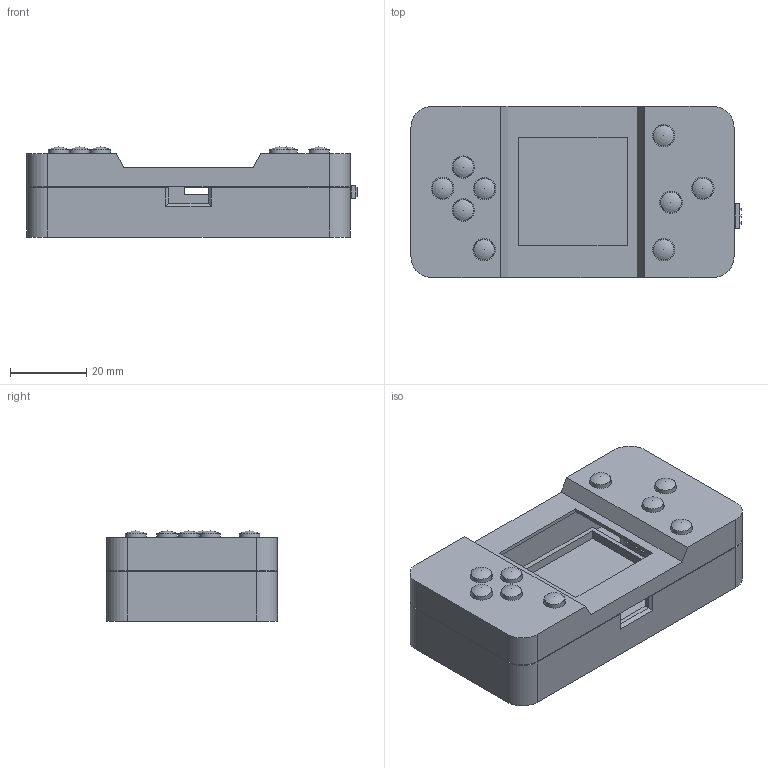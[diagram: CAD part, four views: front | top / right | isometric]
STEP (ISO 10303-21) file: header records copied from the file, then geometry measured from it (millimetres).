
FILE_DESCRIPTION(('FreeCAD Model'),'2;1');
FILE_NAME('Open CASCADE Shape Model','2026-10-16T01:50:15',('FreeCAD'),( 'FreeCAD'),'Open CASCADE STEP processor 7.8','FreeCAD','Unknown');
FILE_SCHEMA(('AUTOMOTIVE_DESIGN { 1 0 10303 214 1 1 1 1 }'));
Length unit declared in the file: millimetre
Products named in the file (1): Open CASCADE STEP translator 7.8 1
Bounding box: 86.85 x 45 x 23.7 mm (x, y, z)
Volume: 20929.6 mm3; surface area: 27729.3 mm2
Topology: 12 solids, 12 shells, 585 faces, 1634 edges, 1118 vertices
Faces by surface type: plane 461, cylinder 105, sphere 9, bspline 6, cone 4
Full cylindrical faces by diameter (mm): 2.3 x8, 2.4 x9, 2.8 x4, 4.6 x4, 5.4 x9, 5.9 x9, 6.8 x4, 7.3 x9
Entity records: 18996 total; most frequent: CARTESIAN_POINT 3436, ORIENTED_EDGE 3250, DIRECTION 3188, EDGE_CURVE 1625, LINE 1176, VECTOR 1176, VERTEX_POINT 1118, AXIS2_PLACEMENT_3D 1006
